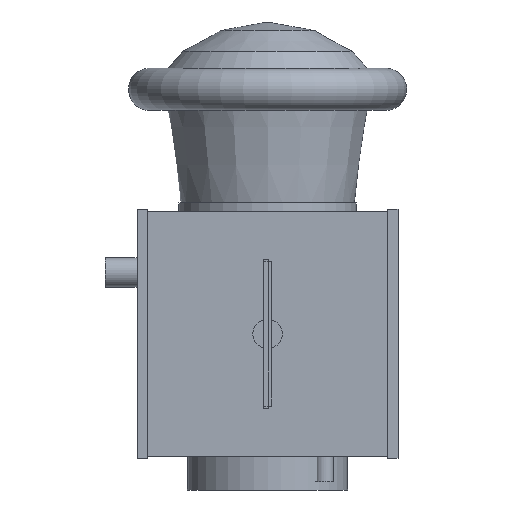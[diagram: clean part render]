
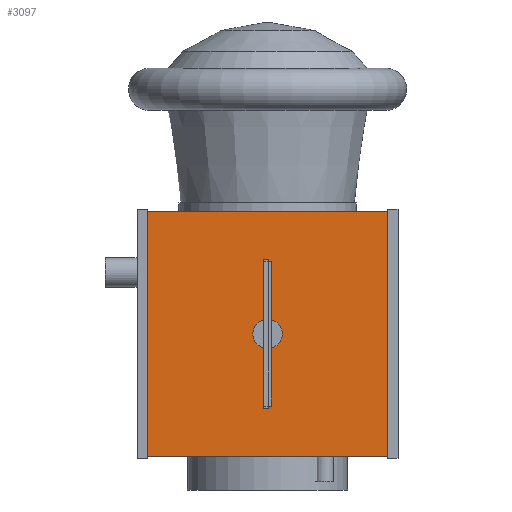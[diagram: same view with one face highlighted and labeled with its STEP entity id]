
A CAD part, left-side view. The second image highlights one B-rep face of the part: STEP entity #3097.
In plain terms, the highlighted planar face has unit normal (-1, 0, 0).
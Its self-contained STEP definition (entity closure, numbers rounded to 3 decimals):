
#3097 = ADVANCED_FACE('',(#3098),#3112,.F.);
#3098 = FACE_BOUND('',#3099,.F.);
#3099 = EDGE_LOOP('',(#3100,#3135,#3163,#3191));
#3100 = ORIENTED_EDGE('',*,*,#3101,.F.);
#3101 = EDGE_CURVE('',#3102,#3104,#3106,.T.);
#3102 = VERTEX_POINT('',#3103);
#3103 = CARTESIAN_POINT('',(-0.296,-0.296,-0.582));
#3104 = VERTEX_POINT('',#3105);
#3105 = CARTESIAN_POINT('',(-0.296,-0.296,0.));
#3106 = SURFACE_CURVE('',#3107,(#3111,#3123),.PCURVE_S1.);
#3107 = LINE('',#3108,#3109);
#3108 = CARTESIAN_POINT('',(-0.296,-0.296,-0.582));
#3109 = VECTOR('',#3110,1.);
#3110 = DIRECTION('',(0.,0.,1.));
#3111 = PCURVE('',#3112,#3117);
#3112 = PLANE('',#3113);
#3113 = AXIS2_PLACEMENT_3D('',#3114,#3115,#3116);
#3114 = CARTESIAN_POINT('',(-0.296,-0.296,-0.582));
#3115 = DIRECTION('',(1.,0.,0.));
#3116 = DIRECTION('',(0.,0.,1.));
#3117 = DEFINITIONAL_REPRESENTATION('',(#3118),#3122);
#3118 = LINE('',#3119,#3120);
#3119 = CARTESIAN_POINT('',(0.,0.));
#3120 = VECTOR('',#3121,1.);
#3121 = DIRECTION('',(1.,0.));
#3122 = ( GEOMETRIC_REPRESENTATION_CONTEXT(2) 
PARAMETRIC_REPRESENTATION_CONTEXT() REPRESENTATION_CONTEXT('2D SPACE',''
  ) );
#3123 = PCURVE('',#3124,#3129);
#3124 = PLANE('',#3125);
#3125 = AXIS2_PLACEMENT_3D('',#3126,#3127,#3128);
#3126 = CARTESIAN_POINT('',(-0.296,-0.296,-0.582));
#3127 = DIRECTION('',(0.,1.,0.));
#3128 = DIRECTION('',(0.,0.,1.));
#3129 = DEFINITIONAL_REPRESENTATION('',(#3130),#3134);
#3130 = LINE('',#3131,#3132);
#3131 = CARTESIAN_POINT('',(0.,0.));
#3132 = VECTOR('',#3133,1.);
#3133 = DIRECTION('',(1.,0.));
#3134 = ( GEOMETRIC_REPRESENTATION_CONTEXT(2) 
PARAMETRIC_REPRESENTATION_CONTEXT() REPRESENTATION_CONTEXT('2D SPACE',''
  ) );
#3135 = ORIENTED_EDGE('',*,*,#3136,.T.);
#3136 = EDGE_CURVE('',#3102,#3137,#3139,.T.);
#3137 = VERTEX_POINT('',#3138);
#3138 = CARTESIAN_POINT('',(-0.296,0.296,-0.582));
#3139 = SURFACE_CURVE('',#3140,(#3144,#3151),.PCURVE_S1.);
#3140 = LINE('',#3141,#3142);
#3141 = CARTESIAN_POINT('',(-0.296,-0.296,-0.582));
#3142 = VECTOR('',#3143,1.);
#3143 = DIRECTION('',(0.,1.,0.));
#3144 = PCURVE('',#3112,#3145);
#3145 = DEFINITIONAL_REPRESENTATION('',(#3146),#3150);
#3146 = LINE('',#3147,#3148);
#3147 = CARTESIAN_POINT('',(0.,0.));
#3148 = VECTOR('',#3149,1.);
#3149 = DIRECTION('',(0.,-1.));
#3150 = ( GEOMETRIC_REPRESENTATION_CONTEXT(2) 
PARAMETRIC_REPRESENTATION_CONTEXT() REPRESENTATION_CONTEXT('2D SPACE',''
  ) );
#3151 = PCURVE('',#3152,#3157);
#3152 = PLANE('',#3153);
#3153 = AXIS2_PLACEMENT_3D('',#3154,#3155,#3156);
#3154 = CARTESIAN_POINT('',(-0.296,-0.296,-0.582));
#3155 = DIRECTION('',(0.,0.,1.));
#3156 = DIRECTION('',(1.,0.,0.));
#3157 = DEFINITIONAL_REPRESENTATION('',(#3158),#3162);
#3158 = LINE('',#3159,#3160);
#3159 = CARTESIAN_POINT('',(0.,0.));
#3160 = VECTOR('',#3161,1.);
#3161 = DIRECTION('',(0.,1.));
#3162 = ( GEOMETRIC_REPRESENTATION_CONTEXT(2) 
PARAMETRIC_REPRESENTATION_CONTEXT() REPRESENTATION_CONTEXT('2D SPACE',''
  ) );
#3163 = ORIENTED_EDGE('',*,*,#3164,.T.);
#3164 = EDGE_CURVE('',#3137,#3165,#3167,.T.);
#3165 = VERTEX_POINT('',#3166);
#3166 = CARTESIAN_POINT('',(-0.296,0.296,0.));
#3167 = SURFACE_CURVE('',#3168,(#3172,#3179),.PCURVE_S1.);
#3168 = LINE('',#3169,#3170);
#3169 = CARTESIAN_POINT('',(-0.296,0.296,-0.582));
#3170 = VECTOR('',#3171,1.);
#3171 = DIRECTION('',(0.,0.,1.));
#3172 = PCURVE('',#3112,#3173);
#3173 = DEFINITIONAL_REPRESENTATION('',(#3174),#3178);
#3174 = LINE('',#3175,#3176);
#3175 = CARTESIAN_POINT('',(0.,-0.591));
#3176 = VECTOR('',#3177,1.);
#3177 = DIRECTION('',(1.,0.));
#3178 = ( GEOMETRIC_REPRESENTATION_CONTEXT(2) 
PARAMETRIC_REPRESENTATION_CONTEXT() REPRESENTATION_CONTEXT('2D SPACE',''
  ) );
#3179 = PCURVE('',#3180,#3185);
#3180 = PLANE('',#3181);
#3181 = AXIS2_PLACEMENT_3D('',#3182,#3183,#3184);
#3182 = CARTESIAN_POINT('',(-0.296,0.296,-0.582));
#3183 = DIRECTION('',(0.,1.,0.));
#3184 = DIRECTION('',(0.,0.,1.));
#3185 = DEFINITIONAL_REPRESENTATION('',(#3186),#3190);
#3186 = LINE('',#3187,#3188);
#3187 = CARTESIAN_POINT('',(0.,0.));
#3188 = VECTOR('',#3189,1.);
#3189 = DIRECTION('',(1.,0.));
#3190 = ( GEOMETRIC_REPRESENTATION_CONTEXT(2) 
PARAMETRIC_REPRESENTATION_CONTEXT() REPRESENTATION_CONTEXT('2D SPACE',''
  ) );
#3191 = ORIENTED_EDGE('',*,*,#3192,.F.);
#3192 = EDGE_CURVE('',#3104,#3165,#3193,.T.);
#3193 = SURFACE_CURVE('',#3194,(#3198,#3205),.PCURVE_S1.);
#3194 = LINE('',#3195,#3196);
#3195 = CARTESIAN_POINT('',(-0.296,-0.296,0.));
#3196 = VECTOR('',#3197,1.);
#3197 = DIRECTION('',(0.,1.,0.));
#3198 = PCURVE('',#3112,#3199);
#3199 = DEFINITIONAL_REPRESENTATION('',(#3200),#3204);
#3200 = LINE('',#3201,#3202);
#3201 = CARTESIAN_POINT('',(0.582,0.));
#3202 = VECTOR('',#3203,1.);
#3203 = DIRECTION('',(0.,-1.));
#3204 = ( GEOMETRIC_REPRESENTATION_CONTEXT(2) 
PARAMETRIC_REPRESENTATION_CONTEXT() REPRESENTATION_CONTEXT('2D SPACE',''
  ) );
#3205 = PCURVE('',#3206,#3211);
#3206 = PLANE('',#3207);
#3207 = AXIS2_PLACEMENT_3D('',#3208,#3209,#3210);
#3208 = CARTESIAN_POINT('',(-0.296,-0.296,0.));
#3209 = DIRECTION('',(0.,0.,1.));
#3210 = DIRECTION('',(1.,0.,0.));
#3211 = DEFINITIONAL_REPRESENTATION('',(#3212),#3216);
#3212 = LINE('',#3213,#3214);
#3213 = CARTESIAN_POINT('',(0.,0.));
#3214 = VECTOR('',#3215,1.);
#3215 = DIRECTION('',(0.,1.));
#3216 = ( GEOMETRIC_REPRESENTATION_CONTEXT(2) 
PARAMETRIC_REPRESENTATION_CONTEXT() REPRESENTATION_CONTEXT('2D SPACE',''
  ) );
